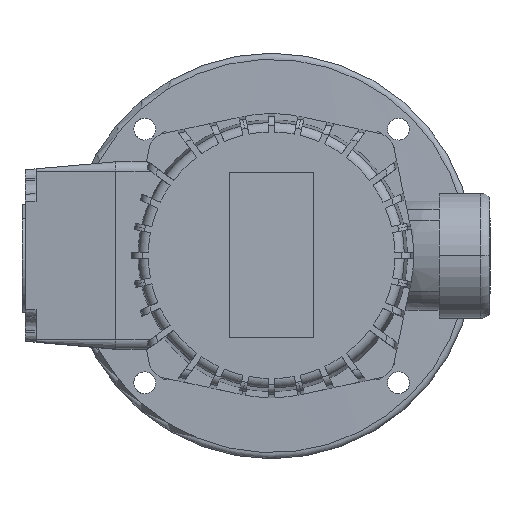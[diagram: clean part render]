
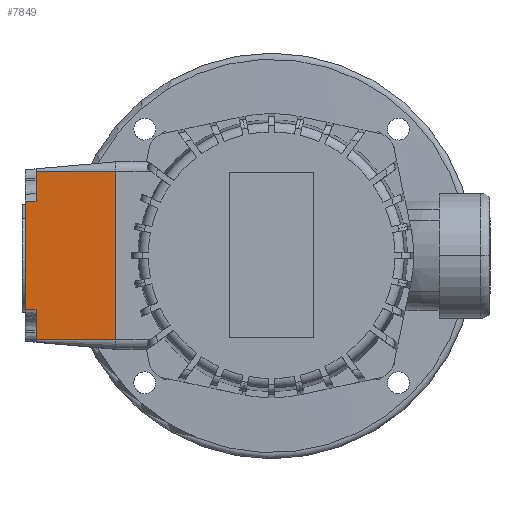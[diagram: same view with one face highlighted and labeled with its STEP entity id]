
A CAD part, top view. The second image highlights one B-rep face of the part: STEP entity #7849.
In plain terms, the highlighted planar face has unit normal (-0.087, 0, 0.996).
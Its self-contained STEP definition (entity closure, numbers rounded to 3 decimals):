
#3569=EDGE_CURVE('',#5591,#5775,#10294,.T.);
#3593=VERTEX_POINT('',#10320);
#3747=VERTEX_POINT('',#10484);
#3797=EDGE_CURVE('',#5775,#6229,#10538,.T.);
#4021=VERTEX_POINT('',#10787);
#4865=EDGE_CURVE('',#4021,#8309,#11715,.T.);
#5591=VERTEX_POINT('',#12508);
#5775=VERTEX_POINT('',#12707);
#5907=EDGE_CURVE('',#4021,#3747,#12847,.T.);
#6229=VERTEX_POINT('',#13193);
#6645=EDGE_CURVE('',#7365,#5591,#13639,.T.);
#6661=EDGE_CURVE('',#3747,#7365,#13659,.T.);
#7365=VERTEX_POINT('',#14435);
#7849=ADVANCED_FACE('',(#14974),#14975,.T.);
#7885=EDGE_CURVE('',#6229,#3593,#15012,.T.);
#8309=VERTEX_POINT('',#15495);
#8355=EDGE_CURVE('',#3593,#8309,#15545,.T.);
#10294=B_SPLINE_CURVE_WITH_KNOTS('',2,(#18073,#18074,#18075),.UNSPECIFIED.,.F.,.F.,(3,3),(0.0,3.513),.UNSPECIFIED.);
#10320=CARTESIAN_POINT('',(-75.5,-17.353,60.269));
#10484=CARTESIAN_POINT('',(-50.0,27.0,62.5));
#10538=LINE('',#18530,#18531);
#10787=CARTESIAN_POINT('',(-50.0,-27.0,62.5));
#11715=LINE('',#20906,#20907);
#12508=CARTESIAN_POINT('',(-75.5,17.353,60.269));
#12707=CARTESIAN_POINT('',(-79.0,17.326,59.963));
#12847=LINE('',#23338,#23339);
#13193=CARTESIAN_POINT('',(-79.0,-17.326,59.963));
#13639=LINE('',#25353,#25354);
#13659=LINE('',#25415,#25416);
#14435=CARTESIAN_POINT('',(-75.5,27.0,60.269));
#14974=FACE_OUTER_BOUND('',#28639,.T.);
#14975=PLANE('',#28640);
#15012=B_SPLINE_CURVE_WITH_KNOTS('',2,(#28705,#28706,#28707),.UNSPECIFIED.,.F.,.F.,(3,3),(0.0,3.513),.UNSPECIFIED.);
#15495=CARTESIAN_POINT('',(-75.5,-27.0,60.269));
#15545=LINE('',#29781,#29782);
#18073=CARTESIAN_POINT('',(-75.5,17.353,60.269));
#18074=CARTESIAN_POINT('',(-77.297,17.339,60.112));
#18075=CARTESIAN_POINT('',(-79.0,17.326,59.963));
#18530=CARTESIAN_POINT('',(-79.0,-27.0,59.963));
#18531=VECTOR('',#34426,1.0);
#20906=CARTESIAN_POINT('',(-50.0,-27.0,62.5));
#20907=VECTOR('',#35868,1.0);
#23338=CARTESIAN_POINT('',(-50.0,-27.0,62.5));
#23339=VECTOR('',#37035,1.0);
#25353=CARTESIAN_POINT('',(-75.5,25.811,60.269));
#25354=VECTOR('',#37747,1.0);
#25415=CARTESIAN_POINT('',(-50.0,27.0,62.5));
#25416=VECTOR('',#37775,1.0);
#28639=EDGE_LOOP('',(#39328,#39329,#39330,#39331,#39332,#39333,#39334,#39335));
#28640=AXIS2_PLACEMENT_3D('',#39336,#39337,#39338);
#28705=CARTESIAN_POINT('',(-79.0,-17.326,59.963));
#28706=CARTESIAN_POINT('',(-77.297,-17.339,60.112));
#28707=CARTESIAN_POINT('',(-75.5,-17.353,60.269));
#29781=CARTESIAN_POINT('',(-75.5,1.189,60.269));
#29782=VECTOR('',#40081,1.0);
#34426=DIRECTION('',(0.0,-1.0,0.0));
#35868=DIRECTION('',(-0.996,0.,-0.087));
#37035=DIRECTION('',(0.0,1.0,0.0));
#37747=DIRECTION('',(0.0,-1.0,0.0));
#37775=DIRECTION('',(-0.996,0.0,-0.087));
#39328=ORIENTED_EDGE('',*,*,#8355,.T.);
#39329=ORIENTED_EDGE('',*,*,#4865,.F.);
#39330=ORIENTED_EDGE('',*,*,#5907,.T.);
#39331=ORIENTED_EDGE('',*,*,#6661,.T.);
#39332=ORIENTED_EDGE('',*,*,#6645,.T.);
#39333=ORIENTED_EDGE('',*,*,#3569,.T.);
#39334=ORIENTED_EDGE('',*,*,#3797,.T.);
#39335=ORIENTED_EDGE('',*,*,#7885,.T.);
#39336=CARTESIAN_POINT('',(-50.0,27.0,62.5));
#39337=DIRECTION('',(-0.087,0.0,0.996));
#39338=DIRECTION('',(0.0,1.0,0.0));
#40081=DIRECTION('',(0.0,-1.0,0.0));
